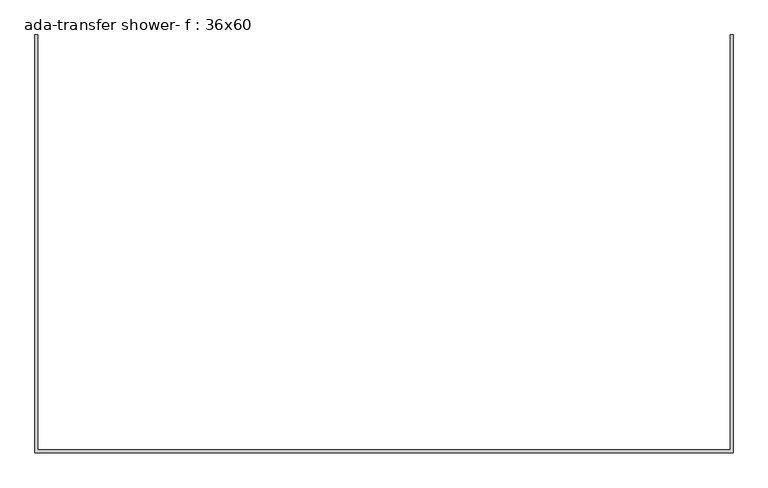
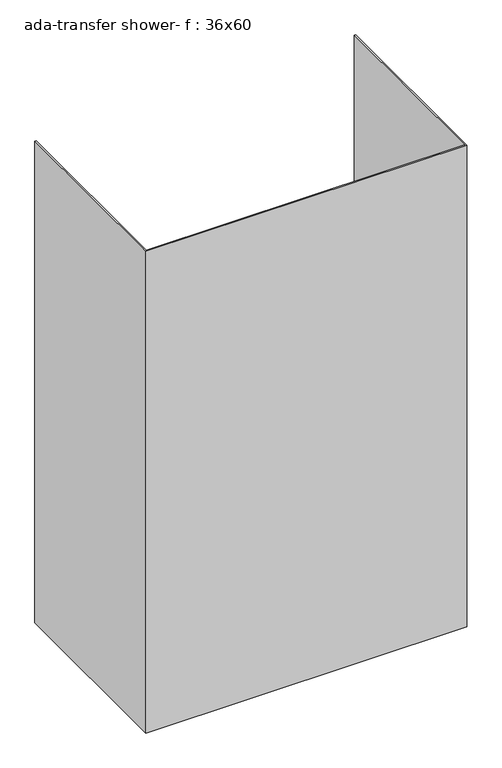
"""IFC4 building model written with IfcOpenShell, lengths in millimetres: flow terminal geometry, ada-transfer shower- f : 36x60."""

from ifc_helpers import new_model, si_unit, origin, origin_with_axes, place, context, project, spatial, polyline, outline, extrude, source, transform, mapped, element, save


def ada_transfer_shower_f_36x60_ab0e04bc(model_context):
    return source(origin(), model_context, "Body", "SweptSolid", [
        extrude(outline(polyline([(1536.7, 0.0), (0.0, 0.0), (0.0, 920.75), (6.35, 920.75), (6.35, 6.35), (1530.35, 6.35), (1530.35, 920.75), (1536.7, 920.75), (1536.7, 0.0)])), origin_with_axes(), (0.0, 0.0, 1.0), 2438.4),
    ])


if __name__ == "__main__":
    model = new_model("IFC4")
    model_context = context("Model", 3, world=origin())
    ifc_project = project(units=[si_unit("LENGTHUNIT", "METRE", prefix="MILLI")], contexts=[model_context])
    site = spatial("IfcSite", under=ifc_project)
    building = spatial("IfcBuilding", under=site)
    placement = place(None, origin())
    ada_transfer_shower_f_36x60_shape = ada_transfer_shower_f_36x60_ab0e04bc(model_context)
    element("IfcFlowTerminal", 1, ObjectType="ada-transfer shower- f : 36x60", at=placement, inside=building, context=model_context, shape_type="MappedRepresentation", body=[
        mapped(ada_transfer_shower_f_36x60_shape, transform((0.0, 0.0, 0.0), x_axis=(1.0, 0.0, 0.0), y_axis=(0.0, 1.0, 0.0), z_axis=(0.0, 0.0, 1.0))),
    ])
    save(model, "model.ifc")
